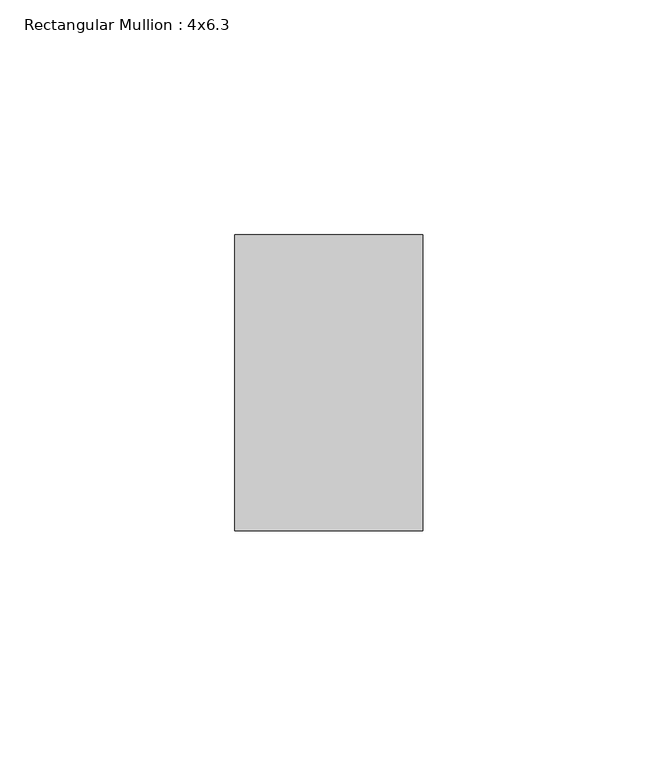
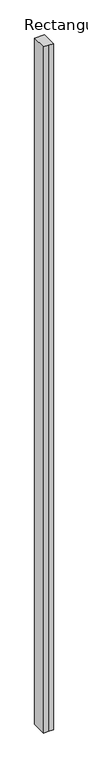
"""IFC4 building model written with IfcOpenShell, lengths in millimetres: member geometry, Rectangular Mullion : 4x6.3."""

from ifc_helpers import new_model, si_unit, frame, origin, place, context, project, spatial, polyline, outline, extrude, source, transform, mapped, element, save


def rectangular_mullion_4x6_3_94a03028(model_context):
    return source(origin(), model_context, "Body", "SweptSolid", [
        extrude(outline(polyline([(-20.0, 20.0), (-20.0, 83.0), (20.0, 83.0), (20.0, 20.0), (0.0, 20.0), (-20.0, 20.0)])), frame((0.0, 0.0, -2968.4348536), z_axis=(0.0, 0.0, 1.0), x_axis=(1.0, 0.0, 0.0)), (0.0, 0.0, 1.0), 2968.4348536),
    ])


if __name__ == "__main__":
    model = new_model("IFC4")
    model_context = context("Model", 3, world=origin())
    ifc_project = project(units=[si_unit("LENGTHUNIT", "METRE", prefix="MILLI")], contexts=[model_context])
    site = spatial("IfcSite", under=ifc_project)
    building = spatial("IfcBuilding", under=site)
    placement = place(None, origin())
    rectangular_mullion_4x6_3_shape = rectangular_mullion_4x6_3_94a03028(model_context)
    element("IfcMember", 1, ObjectType="Rectangular Mullion : 4x6.3", at=placement, inside=building, context=model_context, shape_type="MappedRepresentation", body=[
        mapped(rectangular_mullion_4x6_3_shape, transform((0.0, 0.0, 0.0), x_axis=(1.0, 0.0, 0.0), y_axis=(0.0, 1.0, 0.0), z_axis=(0.0, 0.0, 1.0))),
    ])
    save(model, "model.ifc")
